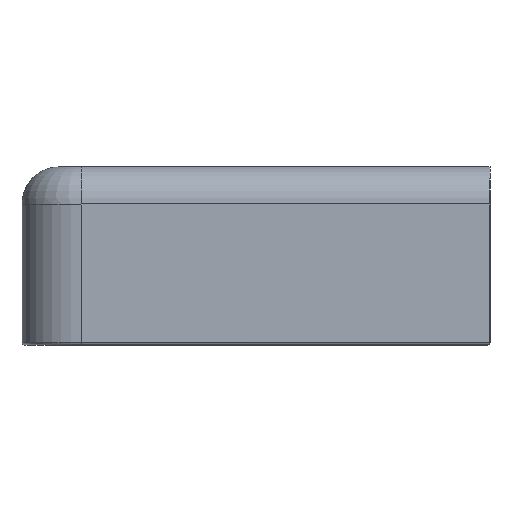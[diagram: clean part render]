
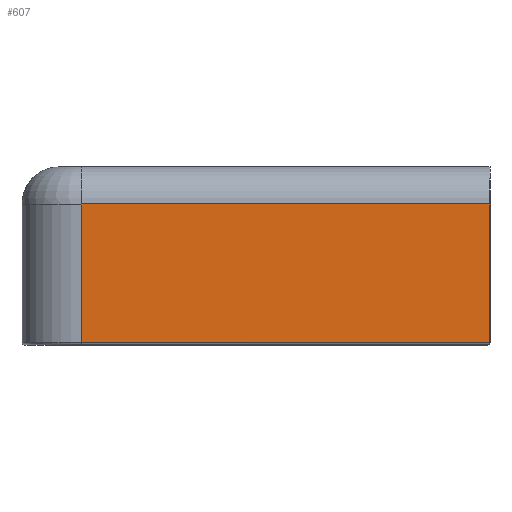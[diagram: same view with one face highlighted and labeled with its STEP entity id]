
A CAD part, left-side view. The second image highlights one B-rep face of the part: STEP entity #607.
In plain terms, the highlighted planar face has unit normal (-1, 0, 0).
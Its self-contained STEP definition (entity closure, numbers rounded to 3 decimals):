
#155 = EDGE_CURVE ( 'NONE', #664, #1190, #927, .T. ) ;
#271 = CARTESIAN_POINT ( 'NONE',  ( -30., 27.5, 9.5 ) ) ;
#325 = CARTESIAN_POINT ( 'NONE',  ( -30., 27.5, 0.2 ) ) ;
#607 = ADVANCED_FACE ( 'NONE', ( #1798 ), #1319, .T. ) ;
#664 = VERTEX_POINT ( 'NONE', #271 ) ;
#718 = CARTESIAN_POINT ( 'NONE',  ( -30., 0., 0.2 ) ) ;
#763 = ORIENTED_EDGE ( 'NONE', *, *, #1490, .T. ) ;
#783 = EDGE_LOOP ( 'NONE', ( #763, #1963, #1068, #1479 ) ) ;
#817 = CARTESIAN_POINT ( 'NONE',  ( -30., 0., 0.2 ) ) ;
#829 = LINE ( 'NONE', #871, #1758 ) ;
#871 = CARTESIAN_POINT ( 'NONE',  ( -30., 0., 12. ) ) ;
#893 = CARTESIAN_POINT ( 'NONE',  ( -30., 13.75, 12. ) ) ;
#897 = AXIS2_PLACEMENT_3D ( 'NONE', #893, #1038, #1930 ) ;
#922 = VERTEX_POINT ( 'NONE', #817 ) ;
#927 = LINE ( 'NONE', #937, #1371 ) ;
#937 = CARTESIAN_POINT ( 'NONE',  ( -30., 13.75, 9.5 ) ) ;
#991 = LINE ( 'NONE', #1789, #1217 ) ;
#1038 = DIRECTION ( 'NONE',  ( -1., 0., 0. ) ) ;
#1068 = ORIENTED_EDGE ( 'NONE', *, *, #1844, .F. ) ;
#1157 = DIRECTION ( 'NONE',  ( 0., 0., -1. ) ) ;
#1190 = VERTEX_POINT ( 'NONE', #1387 ) ;
#1217 = VECTOR ( 'NONE', #1157, 1000. ) ;
#1265 = VERTEX_POINT ( 'NONE', #325 ) ;
#1319 = PLANE ( 'NONE',  #897 ) ;
#1371 = VECTOR ( 'NONE', #1865, 1000. ) ;
#1387 = CARTESIAN_POINT ( 'NONE',  ( -30., 0., 9.5 ) ) ;
#1479 = ORIENTED_EDGE ( 'NONE', *, *, #155, .F. ) ;
#1490 = EDGE_CURVE ( 'NONE', #664, #1265, #991, .T. ) ;
#1502 = LINE ( 'NONE', #718, #1537 ) ;
#1537 = VECTOR ( 'NONE', #1931, 1000. ) ;
#1584 = EDGE_CURVE ( 'NONE', #1265, #922, #1502, .T. ) ;
#1758 = VECTOR ( 'NONE', #1898, 1000. ) ;
#1789 = CARTESIAN_POINT ( 'NONE',  ( -30., 27.5, 12. ) ) ;
#1798 = FACE_OUTER_BOUND ( 'NONE', #783, .T. ) ;
#1844 = EDGE_CURVE ( 'NONE', #1190, #922, #829, .T. ) ;
#1865 = DIRECTION ( 'NONE',  ( 0., -1., 0. ) ) ;
#1898 = DIRECTION ( 'NONE',  ( 0., 0., -1. ) ) ;
#1930 = DIRECTION ( 'NONE',  ( 0., 0., 1. ) ) ;
#1931 = DIRECTION ( 'NONE',  ( 0., -1., 0. ) ) ;
#1963 = ORIENTED_EDGE ( 'NONE', *, *, #1584, .T. ) ;
